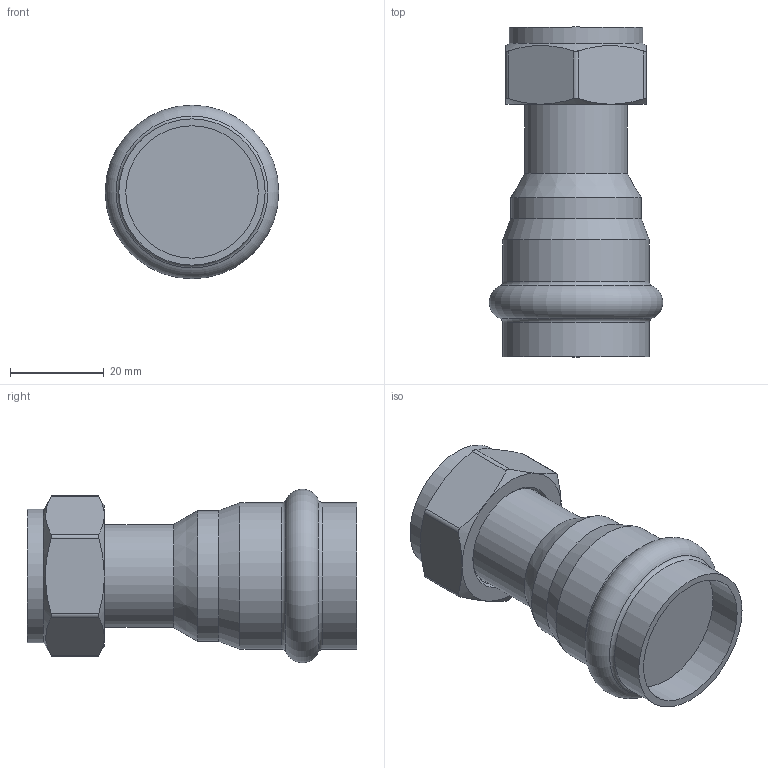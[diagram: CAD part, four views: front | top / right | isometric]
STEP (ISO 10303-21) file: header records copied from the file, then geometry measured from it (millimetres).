
FILE_DESCRIPTION(('STEP AP203'), '1');
FILE_NAME('VTi.908.I.002805', '', ('UNSPECIFIED'), ('UNSPECIFIED'), 'C3D Converter', 'C3D Toolkit', '');
FILE_SCHEMA(('CONFIG_CONTROL_DESIGN'));
Length unit declared in the file: millimetre
Bounding box: 37.08 x 70.5 x 37.08 mm (x, y, z)
Volume: 38406.8 mm3; surface area: 10241 mm2
Topology: 1 solids, 1 shells, 40 faces, 85 edges, 51 vertices
Faces by surface type: cylinder 14, plane 12, cone 11, torus 3
Full cylindrical faces by diameter (mm): 22 x1, 22.5 x1, 24.118 x1, 28 x1, 28.3 x1, 28.5 x1, 31.26 x2
Entity records: 1914 total; most frequent: CARTESIAN_POINT 1118, DIRECTION 146, ORIENTED_EDGE 138, EDGE_CURVE 69, AXIS2_PLACEMENT_3D 67, EDGE_LOOP 60, VERTEX_POINT 51, ADVANCED_FACE 40
